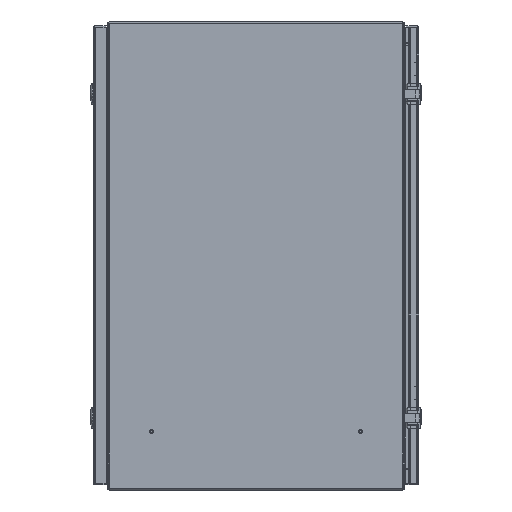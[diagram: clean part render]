
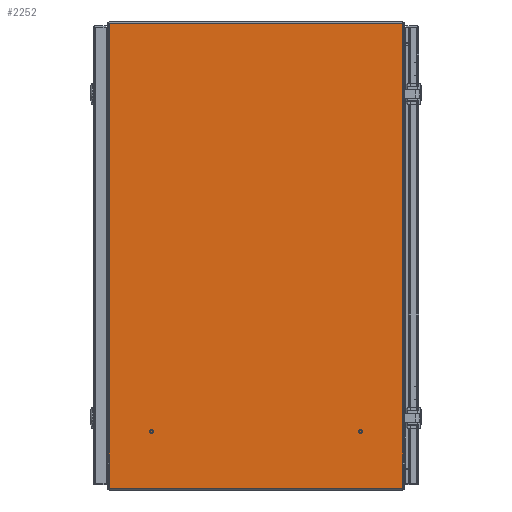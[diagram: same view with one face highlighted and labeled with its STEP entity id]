
A CAD part, left-side view. The second image highlights one B-rep face of the part: STEP entity #2252.
In plain terms, the highlighted planar face has unit normal (-1, 0, 0) as drawn and (1, 0, 0) by its records, which use the part's own axes.
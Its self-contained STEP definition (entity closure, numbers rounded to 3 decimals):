
#2252 = ADVANCED_FACE( '', ( #3454 ), #3455, .T. );
#3454 = FACE_OUTER_BOUND( '', #6319, .T. );
#3455 = PLANE( '', #6320 );
#6319 = EDGE_LOOP( '', ( #11477, #11478, #11479, #11480 ) );
#6320 = AXIS2_PLACEMENT_3D( '', #11481, #11482, #11483 );
#11477 = ORIENTED_EDGE( '', *, *, #15585, .T. );
#11478 = ORIENTED_EDGE( '', *, *, #15518, .T. );
#11479 = ORIENTED_EDGE( '', *, *, #15613, .T. );
#11480 = ORIENTED_EDGE( '', *, *, #15648, .F. );
#11481 = CARTESIAN_POINT( '', ( 456.286, 209.55, -329.286 ) );
#11482 = DIRECTION( '', ( 1., 0., 0. ) );
#11483 = DIRECTION( '', ( 0., 0., -1. ) );
#15518 = EDGE_CURVE( '', #17587, #17591, #17593, .T. );
#15585 = EDGE_CURVE( '', #17719, #17587, #17720, .T. );
#15613 = EDGE_CURVE( '', #17591, #17763, #17765, .T. );
#15648 = EDGE_CURVE( '', #17719, #17763, #17818, .T. );
#17587 = VERTEX_POINT( '', #20915 );
#17591 = VERTEX_POINT( '', #20920 );
#17593 = LINE( '', #20922, #20923 );
#17719 = VERTEX_POINT( '', #21127 );
#17720 = LINE( '', #21128, #21129 );
#17763 = VERTEX_POINT( '', #21257 );
#17765 = LINE( '', #21268, #21269 );
#17818 = LINE( '', #21377, #21378 );
#20915 = CARTESIAN_POINT( '', ( 456.286, 206.807, 326.542 ) );
#20920 = CARTESIAN_POINT( '', ( 456.286, -206.807, 326.542 ) );
#20922 = CARTESIAN_POINT( '', ( 456.286, 209.55, 326.542 ) );
#20923 = VECTOR( '', #25369, 1000. );
#21127 = CARTESIAN_POINT( '', ( 456.286, 206.807, -329.286 ) );
#21128 = CARTESIAN_POINT( '', ( 456.286, 206.807, -329.286 ) );
#21129 = VECTOR( '', #25462, 1000. );
#21257 = CARTESIAN_POINT( '', ( 456.286, -206.807, -329.286 ) );
#21268 = CARTESIAN_POINT( '', ( 456.286, -206.807, 326.542 ) );
#21269 = VECTOR( '', #25481, 1000. );
#21377 = CARTESIAN_POINT( '', ( 456.286, 209.55, -329.286 ) );
#21378 = VECTOR( '', #25519, 1000. );
#25369 = DIRECTION( '', ( 0., -1., 0. ) );
#25462 = DIRECTION( '', ( 0., 0., 1. ) );
#25481 = DIRECTION( '', ( 0., 0., -1. ) );
#25519 = DIRECTION( '', ( 0., -1., 0. ) );
